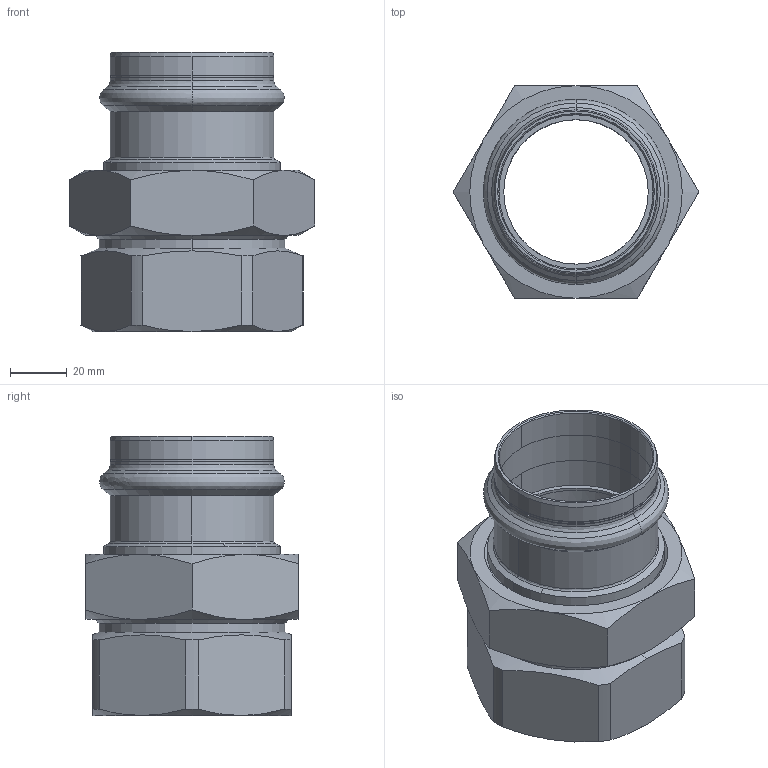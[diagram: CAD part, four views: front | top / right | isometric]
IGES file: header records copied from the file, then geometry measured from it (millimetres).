
Start section: Elysium IGES Interface
Global section: file name: C:\3d modellen sudo\C-Pr VP\SP8330GV\8330GVW542.igs; native system: CoCreate Modeling 17.00A  17-Jun-2010; preprocessor: CoCreate IGES_3D V2.2; author: Unknown; organization: Unknown; date: 20130305.132447; units: millimetre
Bounding box: 86.6 x 75 x 98.5 mm (x, y, z)
Volume: 130183.6 mm3; surface area: 56236.3 mm2
Topology: 3 solids, 3 shells, 130 faces, 304 edges, 184 vertices
Faces by surface type: bspline 130
